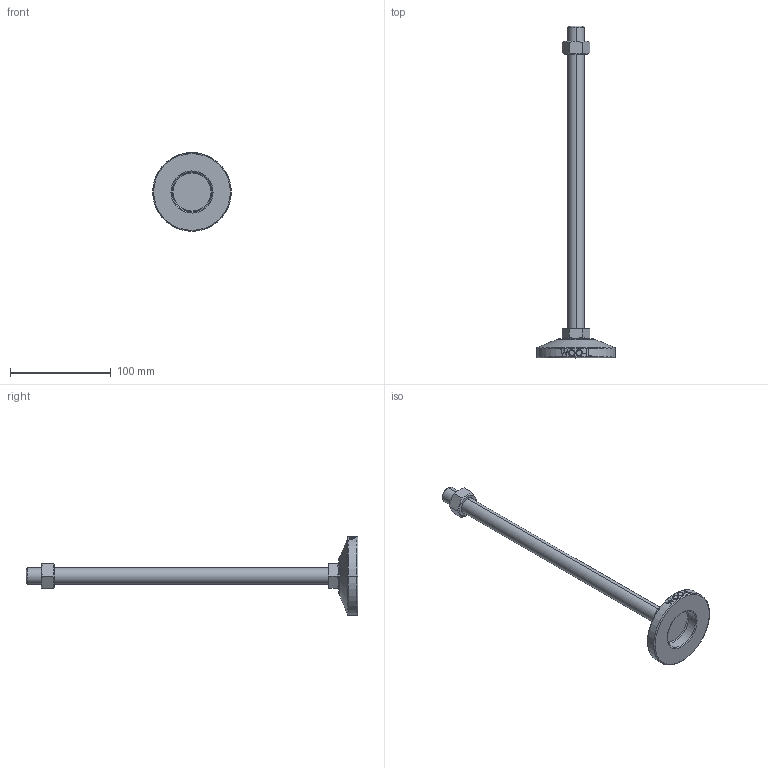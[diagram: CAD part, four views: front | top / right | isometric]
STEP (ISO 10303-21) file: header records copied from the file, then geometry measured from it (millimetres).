
FILE_DESCRIPTION (( 'STEP AP214' ), '1' );
FILE_NAME ('MFT78-M16-300.step', '2021-03-29T04:43:57', ( '' ), ( '' ), 'SwSTEP 2.0', 'SolidWorks 2019', '' );
FILE_SCHEMA (( 'AUTOMOTIVE_DESIGN' ));
Length unit declared in the file: millimetre
Products named in the file (2): MFT78-M16-300
Bounding box: 78 x 329 x 78 mm (x, y, z)
Volume: 125674.2 mm3; surface area: 32660.1 mm2
Topology: 3 solids, 3 shells, 106 faces, 243 edges, 154 vertices
Faces by surface type: plane 48, cylinder 18, bspline 16, cone 14, torus 10
Entity records: 4506 total; most frequent: CARTESIAN_POINT 2163, ORIENTED_EDGE 486, DIRECTION 439, EDGE_CURVE 243, AXIS2_PLACEMENT_3D 170, VERTEX_POINT 154, EDGE_LOOP 119, FACE_OUTER_BOUND 106
